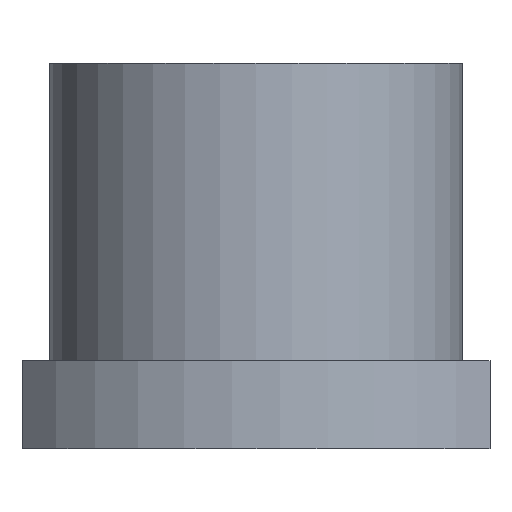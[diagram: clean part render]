
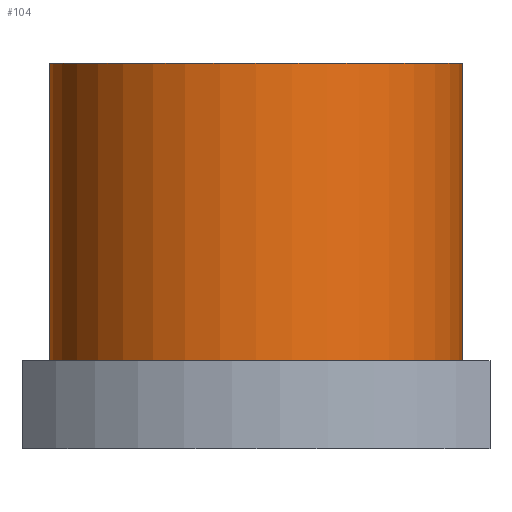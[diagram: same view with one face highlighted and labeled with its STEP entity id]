
A CAD part, front view. The second image highlights one B-rep face of the part: STEP entity #104.
In plain terms, the highlighted cylindrical face has radius 37.5 mm (diameter 75 mm), a full revolution.
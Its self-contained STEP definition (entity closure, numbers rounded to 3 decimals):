
#104=ADVANCED_FACE('',(#138,#139),#124,.T.);
#124=CYLINDRICAL_SURFACE('',#435,37.5);
#138=FACE_BOUND('',#195,.T.);
#139=FACE_BOUND('',#196,.T.);
#195=EDGE_LOOP('',(#268));
#196=EDGE_LOOP('',(#269));
#268=ORIENTED_EDGE('',*,*,#372,.F.);
#269=ORIENTED_EDGE('',*,*,#373,.T.);
#340=VERTEX_POINT('',#648);
#341=VERTEX_POINT('',#650);
#372=EDGE_CURVE('',#340,#340,#405,.T.);
#373=EDGE_CURVE('',#341,#341,#406,.T.);
#405=CIRCLE('',#433,37.5);
#406=CIRCLE('',#434,37.5);
#433=AXIS2_PLACEMENT_3D('',#647,#486,#487);
#434=AXIS2_PLACEMENT_3D('',#649,#488,#489);
#435=AXIS2_PLACEMENT_3D('',#651,#490,#491);
#486=DIRECTION('',(0.,0.,-1.));
#487=DIRECTION('',(1.,0.,0.));
#488=DIRECTION('',(0.,0.,-1.));
#489=DIRECTION('',(1.,0.,0.));
#490=DIRECTION('',(0.,0.,-1.));
#491=DIRECTION('',(-1.,0.,0.));
#647=CARTESIAN_POINT('',(0.,0.,16.));
#648=CARTESIAN_POINT('',(37.5,0.,16.));
#649=CARTESIAN_POINT('',(0.,0.,70.));
#650=CARTESIAN_POINT('',(37.5,0.,70.));
#651=CARTESIAN_POINT('',(0.,0.,70.));
